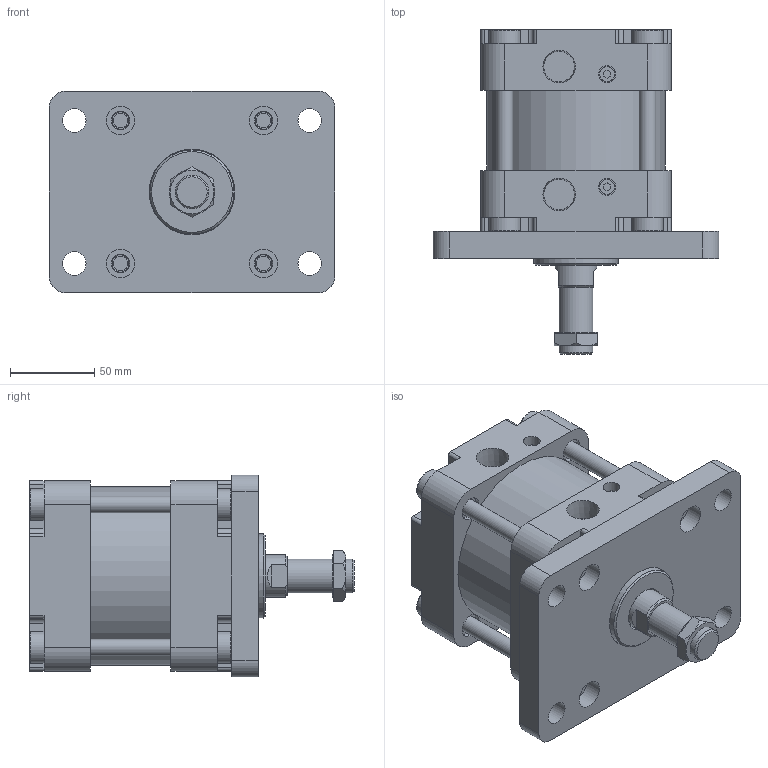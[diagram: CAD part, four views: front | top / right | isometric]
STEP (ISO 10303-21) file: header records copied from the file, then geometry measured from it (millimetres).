
FILE_DESCRIPTION(/* description */ ('Unknown'),/* implementation_level */ '2;1');
FILE_NAME(/* name */ 'WA100-0-FA',/* time_stamp */ '2026-07-17T16:57:37+08:00',/* author */ ('Unknown'),/* organization */ ('Unknown'),/* preprocessor_version */ 'ST-DEVELOPER v16.7',/* originating_system */ 'DEX',/* authorisation */ $);
FILE_SCHEMA (('CONFIG_CONTROL_DESIGN'));
Length unit declared in the file: millimetre
Products named in the file (8): WA100-0-FA; WA100_«e0‡+Z; WA100_後唒崿; WA100_鋁; WA100_¤ß¶b¬¡æ´»å¡žçµ„; M20-1.5P-8_螺; WA100_T碪墮姊濈祫; WA100_FA
Assembly tree (10 placements, depth 2):
  WA100-0-FA
    WA100_«e0‡+Z
    WA100_後唒崿
    WA100_鋁
    WA100_¤ß¶b¬¡æ´»å¡žçµ„
    M20-1.5P-8_螺
    WA100_T碪墮姊濈祫  x4
    WA100_FA
Bounding box: 170 x 193 x 120 mm (x, y, z)
Volume: 1522890.9 mm3; surface area: 261393.1 mm2
Topology: 10 solids, 10 shells, 380 faces, 922 edges, 615 vertices
Faces by surface type: plane 229, cylinder 120, cone 23, torus 8
Full cylindrical faces by diameter (mm): 8.5 x8, 9 x2, 10 x6, 11 x4, 14 x12, 14.2 x8, 17 x4, 18.376 x1, 19 x8, 20 x1, 25 x2, 26 x1, 50 x1, 51 x1, 99.5 x1, 100 x3, 106 x1
Entity records: 10034 total; most frequent: CARTESIAN_POINT 1500, DIRECTION 1426, ORIENTED_EDGE 1272, EDGE_CURVE 636, AXIS2_PLACEMENT_3D 526, VERTEX_POINT 452, EDGE_LOOP 404, FACE_BOUND 404
